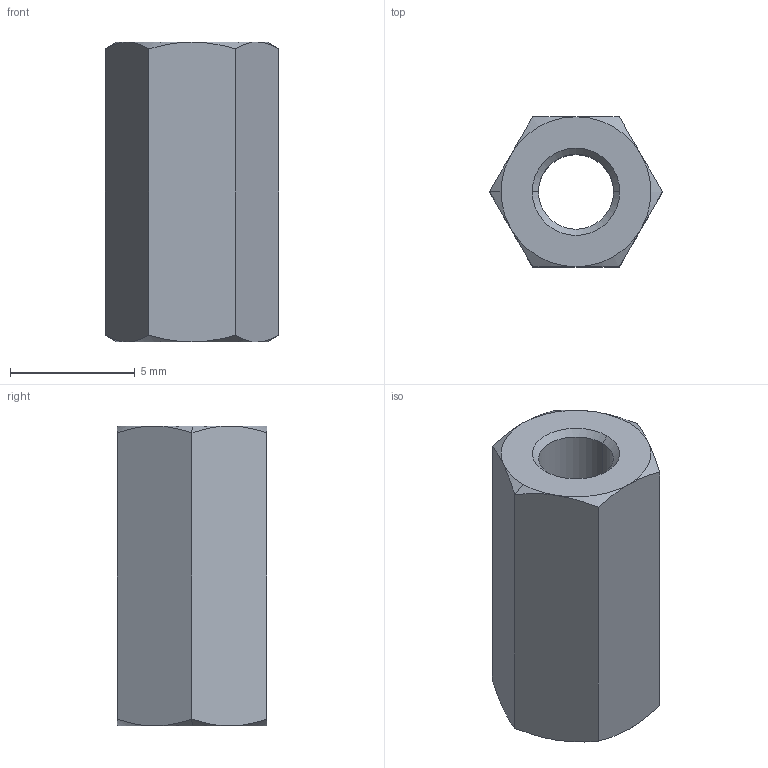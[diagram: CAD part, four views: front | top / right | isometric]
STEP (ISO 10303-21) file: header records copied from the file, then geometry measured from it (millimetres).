
FILE_DESCRIPTION (( 'STEP AP203' ), '1' );
FILE_NAME ('N0503.030-012-NP.step', '2025-02-27T14:40:55', ( '' ), ( '' ), 'SwSTEP 2.0', 'SolidWorks 2019', '' );
FILE_SCHEMA (( 'CONFIG_CONTROL_DESIGN' ));
Length unit declared in the file: millimetre
Products named in the file (1): N0503.030-012-NP
Bounding box: 6.93 x 6 x 12 mm (x, y, z)
Volume: 288.2 mm3; surface area: 405.2 mm2
Topology: 1 solids, 1 shells, 28 faces, 60 edges, 34 vertices
Faces by surface type: cone 18, plane 8, cylinder 2
Entity records: 875 total; most frequent: CARTESIAN_POINT 223, ORIENTED_EDGE 120, DIRECTION 116, EDGE_CURVE 60, AXIS2_PLACEMENT_3D 51, VERTEX_POINT 34, EDGE_LOOP 30, ADVANCED_FACE 28
